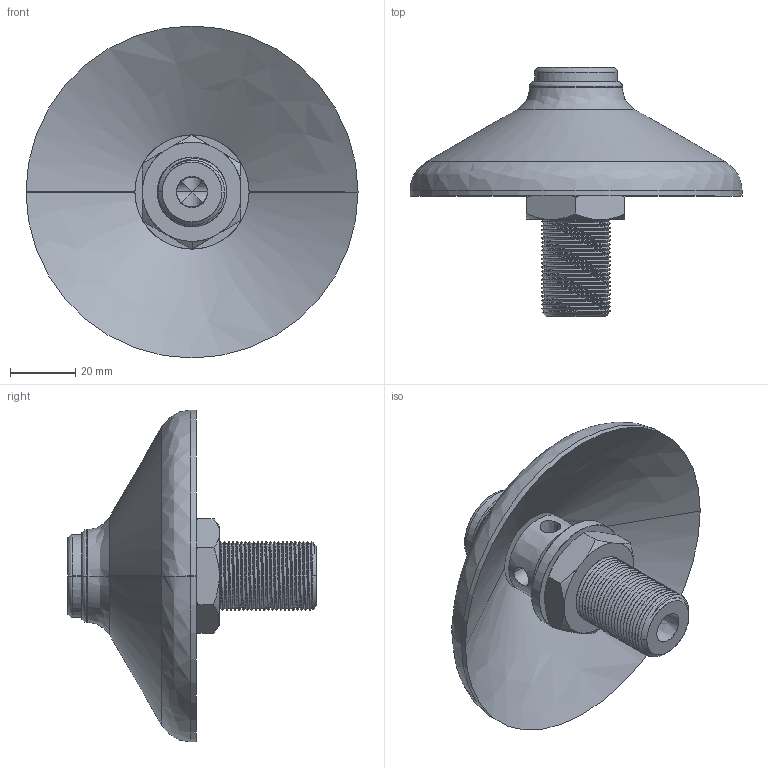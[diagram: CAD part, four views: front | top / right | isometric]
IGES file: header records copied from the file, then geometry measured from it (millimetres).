
Start section: SolidWorks IGES file using analytic representation for surfaces
Global section: file name: V:\WORK\08133\HP 寸法図\blaster\test_4304_asm_defeature.IGS,15; native system: HSolidWorks 2018; preprocessor: SolidWorks 2018; author: n-udagawa; date: 230119.102110; units: millimetre
Bounding box: 101.6 x 76.2 x 101.6 mm (x, y, z)
Surface area: 30911.2 mm2 (no closed solid volume)
Topology: 0 solids, 0 shells, 136 faces, 2111 edges, 2469 vertices
Faces by surface type: revolution 86, bspline 50
